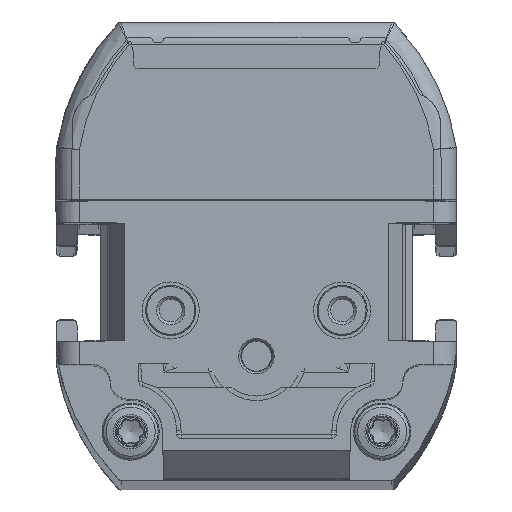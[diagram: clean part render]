
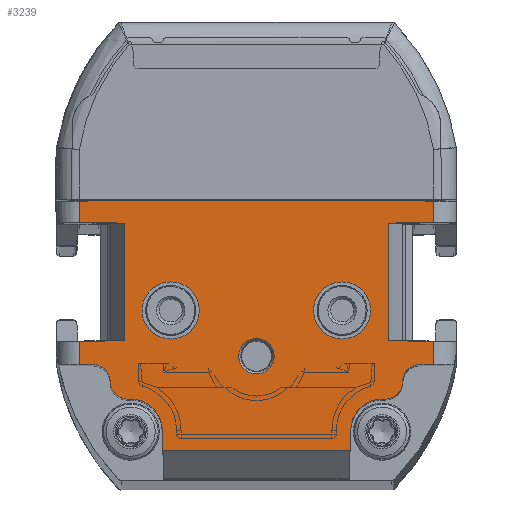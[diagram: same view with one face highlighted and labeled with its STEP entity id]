
A CAD part, top view. The second image highlights one B-rep face of the part: STEP entity #3239.
In plain terms, the highlighted planar face has unit normal (0, 0, 1).
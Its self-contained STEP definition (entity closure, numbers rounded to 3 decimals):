
#1178=FACE_BOUND('',#5343,.T.);
#1179=FACE_BOUND('',#5344,.T.);
#1180=FACE_BOUND('',#5345,.T.);
#1181=FACE_BOUND('',#5346,.T.);
#1900=CIRCLE('',#17502,2.5);
#1901=CIRCLE('',#17504,2.5);
#1902=CIRCLE('',#17506,1.55);
#1905=CIRCLE('',#17576,1.5);
#1906=CIRCLE('',#17577,1.5);
#1907=CIRCLE('',#17578,1.5);
#1908=CIRCLE('',#17579,1.5);
#1909=CIRCLE('',#17580,2.75);
#1910=CIRCLE('',#17581,2.75);
#3239=ADVANCED_FACE('',(#1178,#1179,#1180,#1181),#3754,.T.);
#3754=PLANE('',#17582);
#5343=EDGE_LOOP('',(#9281));
#5344=EDGE_LOOP('',(#9282));
#5345=EDGE_LOOP('',(#9283));
#5346=EDGE_LOOP('',(#9284,#9285,#9286,#9287,#9288,#9289,#9290,#9291,#9292,
#9293,#9294,#9295,#9296,#9297,#9298,#9299,#9300,#9301,#9302,#9303,#9304,
#9305,#9306,#9307,#9308,#9309));
#9281=ORIENTED_EDGE('',*,*,#13579,.T.);
#9282=ORIENTED_EDGE('',*,*,#13578,.F.);
#9283=ORIENTED_EDGE('',*,*,#13577,.F.);
#9284=ORIENTED_EDGE('',*,*,#13699,.F.);
#9285=ORIENTED_EDGE('',*,*,#13700,.T.);
#9286=ORIENTED_EDGE('',*,*,#13701,.T.);
#9287=ORIENTED_EDGE('',*,*,#13702,.T.);
#9288=ORIENTED_EDGE('',*,*,#13630,.T.);
#9289=ORIENTED_EDGE('',*,*,#13576,.T.);
#9290=ORIENTED_EDGE('',*,*,#13573,.T.);
#9291=ORIENTED_EDGE('',*,*,#13572,.T.);
#9292=ORIENTED_EDGE('',*,*,#13698,.T.);
#9293=ORIENTED_EDGE('',*,*,#13703,.F.);
#9294=ORIENTED_EDGE('',*,*,#13704,.F.);
#9295=ORIENTED_EDGE('',*,*,#13705,.F.);
#9296=ORIENTED_EDGE('',*,*,#13692,.T.);
#9297=ORIENTED_EDGE('',*,*,#13568,.F.);
#9298=ORIENTED_EDGE('',*,*,#13564,.T.);
#9299=ORIENTED_EDGE('',*,*,#13563,.F.);
#9300=ORIENTED_EDGE('',*,*,#13603,.T.);
#9301=ORIENTED_EDGE('',*,*,#13706,.F.);
#9302=ORIENTED_EDGE('',*,*,#13707,.T.);
#9303=ORIENTED_EDGE('',*,*,#13708,.T.);
#9304=ORIENTED_EDGE('',*,*,#13709,.F.);
#9305=ORIENTED_EDGE('',*,*,#13710,.F.);
#9306=ORIENTED_EDGE('',*,*,#13711,.F.);
#9307=ORIENTED_EDGE('',*,*,#13611,.T.);
#9308=ORIENTED_EDGE('',*,*,#13712,.F.);
#9309=ORIENTED_EDGE('',*,*,#13713,.F.);
#11499=VERTEX_POINT('',#29891);
#11500=VERTEX_POINT('',#29893);
#11501=VERTEX_POINT('',#29897);
#11502=VERTEX_POINT('',#29901);
#11504=VERTEX_POINT('',#29907);
#11506=VERTEX_POINT('',#29911);
#11507=VERTEX_POINT('',#29915);
#11508=VERTEX_POINT('',#29919);
#11509=VERTEX_POINT('',#29923);
#11510=VERTEX_POINT('',#29926);
#11511=VERTEX_POINT('',#29929);
#11528=VERTEX_POINT('',#30023);
#11533=VERTEX_POINT('',#30037);
#11534=VERTEX_POINT('',#30039);
#11547=VERTEX_POINT('',#30079);
#11581=VERTEX_POINT('',#30332);
#11585=VERTEX_POINT('',#30342);
#11586=VERTEX_POINT('',#30346);
#11587=VERTEX_POINT('',#30347);
#11588=VERTEX_POINT('',#30349);
#11589=VERTEX_POINT('',#30351);
#11590=VERTEX_POINT('',#30354);
#11591=VERTEX_POINT('',#30356);
#11592=VERTEX_POINT('',#30359);
#11593=VERTEX_POINT('',#30361);
#11594=VERTEX_POINT('',#30363);
#11595=VERTEX_POINT('',#30365);
#11596=VERTEX_POINT('',#30367);
#11597=VERTEX_POINT('',#30370);
#13563=EDGE_CURVE('',#11500,#11499,#15088,.T.);
#13564=EDGE_CURVE('',#11501,#11499,#15089,.T.);
#13568=EDGE_CURVE('',#11501,#11502,#15092,.T.);
#13572=EDGE_CURVE('',#11504,#11506,#15095,.T.);
#13573=EDGE_CURVE('',#11507,#11504,#15096,.T.);
#13576=EDGE_CURVE('',#11508,#11507,#15098,.T.);
#13577=EDGE_CURVE('',#11509,#11509,#1900,.T.);
#13578=EDGE_CURVE('',#11510,#11510,#1901,.T.);
#13579=EDGE_CURVE('',#11511,#11511,#1902,.T.);
#13603=EDGE_CURVE('',#11500,#11528,#15113,.T.);
#13611=EDGE_CURVE('',#11533,#11534,#15119,.T.);
#13630=EDGE_CURVE('',#11547,#11508,#15132,.T.);
#13692=EDGE_CURVE('',#11581,#11502,#15175,.T.);
#13698=EDGE_CURVE('',#11506,#11585,#15177,.T.);
#13699=EDGE_CURVE('',#11586,#11587,#15178,.T.);
#13700=EDGE_CURVE('',#11586,#11588,#1905,.T.);
#13701=EDGE_CURVE('',#11588,#11589,#1906,.T.);
#13702=EDGE_CURVE('',#11589,#11547,#15179,.T.);
#13703=EDGE_CURVE('',#11590,#11585,#15180,.T.);
#13704=EDGE_CURVE('',#11591,#11590,#15181,.T.);
#13705=EDGE_CURVE('',#11581,#11591,#15182,.T.);
#13706=EDGE_CURVE('',#11592,#11528,#15183,.T.);
#13707=EDGE_CURVE('',#11592,#11593,#1907,.T.);
#13708=EDGE_CURVE('',#11593,#11594,#1908,.T.);
#13709=EDGE_CURVE('',#11595,#11594,#15184,.T.);
#13710=EDGE_CURVE('',#11596,#11595,#1909,.T.);
#13711=EDGE_CURVE('',#11533,#11596,#15185,.T.);
#13712=EDGE_CURVE('',#11597,#11534,#15186,.T.);
#13713=EDGE_CURVE('',#11587,#11597,#1910,.T.);
#15088=LINE('',#29894,#16251);
#15089=LINE('',#29896,#16252);
#15092=LINE('',#29904,#16255);
#15095=LINE('',#29912,#16258);
#15096=LINE('',#29914,#16259);
#15098=LINE('',#29920,#16261);
#15113=LINE('',#30024,#16276);
#15119=LINE('',#30040,#16282);
#15132=LINE('',#30078,#16295);
#15175=LINE('',#30331,#16338);
#15177=LINE('',#30343,#16340);
#15178=LINE('',#30345,#16341);
#15179=LINE('',#30352,#16342);
#15180=LINE('',#30353,#16343);
#15181=LINE('',#30355,#16344);
#15182=LINE('',#30357,#16345);
#15183=LINE('',#30358,#16346);
#15184=LINE('',#30364,#16347);
#15185=LINE('',#30368,#16348);
#15186=LINE('',#30369,#16349);
#16251=VECTOR('',#20699,1.);
#16252=VECTOR('',#20702,1.);
#16255=VECTOR('',#20709,1.);
#16258=VECTOR('',#20716,1.);
#16259=VECTOR('',#20719,1.);
#16261=VECTOR('',#20725,1.);
#16276=VECTOR('',#20776,1.);
#16282=VECTOR('',#20790,1.);
#16295=VECTOR('',#20829,1.);
#16338=VECTOR('',#20940,1.);
#16340=VECTOR('',#20952,1.);
#16341=VECTOR('',#20955,1.);
#16342=VECTOR('',#20960,1.);
#16343=VECTOR('',#20961,1.);
#16344=VECTOR('',#20962,1.);
#16345=VECTOR('',#20963,1.);
#16346=VECTOR('',#20964,1.);
#16347=VECTOR('',#20969,1.);
#16348=VECTOR('',#20972,1.);
#16349=VECTOR('',#20973,1.);
#17502=AXIS2_PLACEMENT_3D('',#29922,#20728,#20729);
#17504=AXIS2_PLACEMENT_3D('',#29925,#20732,#20733);
#17506=AXIS2_PLACEMENT_3D('',#29928,#20736,#20737);
#17576=AXIS2_PLACEMENT_3D('',#30348,#20956,#20957);
#17577=AXIS2_PLACEMENT_3D('',#30350,#20958,#20959);
#17578=AXIS2_PLACEMENT_3D('',#30360,#20965,#20966);
#17579=AXIS2_PLACEMENT_3D('',#30362,#20967,#20968);
#17580=AXIS2_PLACEMENT_3D('',#30366,#20970,#20971);
#17581=AXIS2_PLACEMENT_3D('',#30371,#20974,#20975);
#17582=AXIS2_PLACEMENT_3D('',#30372,#20976,#20977);
#20699=DIRECTION('',(1.,0.017,0.));
#20702=DIRECTION('',(0.,-1.,0.));
#20709=DIRECTION('',(-1.,0.017,0.));
#20716=DIRECTION('',(1.,0.017,0.));
#20719=DIRECTION('',(0.,1.,0.));
#20725=DIRECTION('',(-1.,0.017,0.));
#20728=DIRECTION('',(0.,0.,1.));
#20729=DIRECTION('',(1.,0.,0.));
#20732=DIRECTION('',(0.,0.,1.));
#20733=DIRECTION('',(1.,0.,0.));
#20736=DIRECTION('',(0.,0.,-1.));
#20737=DIRECTION('',(1.,0.,0.));
#20776=DIRECTION('',(0.,-1.,0.));
#20790=DIRECTION('',(1.,0.,0.));
#20829=DIRECTION('',(0.,1.,0.));
#20940=DIRECTION('',(0.,-1.,0.));
#20952=DIRECTION('',(0.,1.,0.));
#20955=DIRECTION('',(-1.,0.,0.));
#20956=DIRECTION('',(0.,0.,1.));
#20957=DIRECTION('',(1.,0.,0.));
#20958=DIRECTION('',(0.,0.,-1.));
#20959=DIRECTION('',(1.,0.,0.));
#20960=DIRECTION('',(1.,0.,0.));
#20961=DIRECTION('',(1.,-0.017,0.));
#20962=DIRECTION('',(1.,0.,0.));
#20963=DIRECTION('',(1.,0.017,0.));
#20964=DIRECTION('',(-1.,0.,0.));
#20965=DIRECTION('',(0.,0.,-1.));
#20966=DIRECTION('',(1.,0.,0.));
#20967=DIRECTION('',(0.,0.,1.));
#20968=DIRECTION('',(1.,0.,0.));
#20969=DIRECTION('',(-1.,0.,0.));
#20970=DIRECTION('',(0.,0.,1.));
#20971=DIRECTION('',(1.,0.,0.));
#20972=DIRECTION('',(-0.035,0.999,0.));
#20973=DIRECTION('',(-0.035,-0.999,0.));
#20974=DIRECTION('',(0.,0.,1.));
#20975=DIRECTION('',(1.,0.,0.));
#20976=DIRECTION('',(0.,0.,1.));
#20977=DIRECTION('',(1.,0.,0.));
#29891=CARTESIAN_POINT('',(-11.55,12.107,549.));
#29893=CARTESIAN_POINT('',(-15.5,12.038,549.));
#29894=CARTESIAN_POINT('',(-17.709,11.999,549.));
#29896=CARTESIAN_POINT('',(-11.55,0.,549.));
#29897=CARTESIAN_POINT('',(-11.55,22.393,549.));
#29901=CARTESIAN_POINT('',(-15.5,22.462,549.));
#29904=CARTESIAN_POINT('',(-17.107,22.49,549.));
#29907=CARTESIAN_POINT('',(11.55,22.393,549.));
#29911=CARTESIAN_POINT('',(15.5,22.462,549.));
#29912=CARTESIAN_POINT('',(-17.882,21.88,549.));
#29914=CARTESIAN_POINT('',(11.55,0.,549.));
#29915=CARTESIAN_POINT('',(11.55,12.107,549.));
#29919=CARTESIAN_POINT('',(15.5,12.038,549.));
#29920=CARTESIAN_POINT('',(-17.28,12.61,549.));
#29922=CARTESIAN_POINT('',(-7.5,14.75,549.));
#29923=CARTESIAN_POINT('',(-5.,14.75,549.));
#29925=CARTESIAN_POINT('',(7.5,14.75,549.));
#29926=CARTESIAN_POINT('',(10.,14.75,549.));
#29928=CARTESIAN_POINT('',(0.,10.75,549.));
#29929=CARTESIAN_POINT('',(1.55,10.75,549.));
#30023=CARTESIAN_POINT('',(-15.5,10.,549.));
#30024=CARTESIAN_POINT('',(-15.5,0.,549.));
#30037=CARTESIAN_POINT('',(-8.189,2.5,549.));
#30039=CARTESIAN_POINT('',(8.189,2.5,549.));
#30040=CARTESIAN_POINT('',(-17.5,2.5,549.));
#30078=CARTESIAN_POINT('',(15.5,0.,549.));
#30079=CARTESIAN_POINT('',(15.5,10.,549.));
#30331=CARTESIAN_POINT('',(-15.5,0.,549.));
#30332=CARTESIAN_POINT('',(-15.5,24.317,549.));
#30342=CARTESIAN_POINT('',(15.5,24.317,549.));
#30343=CARTESIAN_POINT('',(15.5,0.,549.));
#30345=CARTESIAN_POINT('',(23.25,7.,549.));
#30346=CARTESIAN_POINT('',(11.3,7.,549.));
#30347=CARTESIAN_POINT('',(11.002,7.,549.));
#30348=CARTESIAN_POINT('',(11.3,8.5,549.));
#30349=CARTESIAN_POINT('',(12.8,8.5,549.));
#30350=CARTESIAN_POINT('',(14.3,8.5,549.));
#30351=CARTESIAN_POINT('',(14.3,10.,549.));
#30352=CARTESIAN_POINT('',(-17.5,10.,549.));
#30353=CARTESIAN_POINT('',(-17.066,24.886,549.));
#30354=CARTESIAN_POINT('',(13.025,24.36,549.));
#30355=CARTESIAN_POINT('',(-17.5,24.36,549.));
#30356=CARTESIAN_POINT('',(-13.025,24.36,549.));
#30357=CARTESIAN_POINT('',(-17.924,24.275,549.));
#30358=CARTESIAN_POINT('',(-17.5,10.,549.));
#30359=CARTESIAN_POINT('',(-14.3,10.,549.));
#30360=CARTESIAN_POINT('',(-14.3,8.5,549.));
#30361=CARTESIAN_POINT('',(-12.8,8.5,549.));
#30362=CARTESIAN_POINT('',(-11.3,8.5,549.));
#30363=CARTESIAN_POINT('',(-11.3,7.,549.));
#30364=CARTESIAN_POINT('',(-11.,7.,549.));
#30365=CARTESIAN_POINT('',(-11.002,7.,549.));
#30366=CARTESIAN_POINT('',(-11.002,4.25,549.));
#30367=CARTESIAN_POINT('',(-8.253,4.346,549.));
#30368=CARTESIAN_POINT('',(-8.25,4.25,549.));
#30369=CARTESIAN_POINT('',(8.25,4.25,549.));
#30370=CARTESIAN_POINT('',(8.253,4.346,549.));
#30371=CARTESIAN_POINT('',(11.002,4.25,549.));
#30372=CARTESIAN_POINT('',(-17.5,0.,549.));
